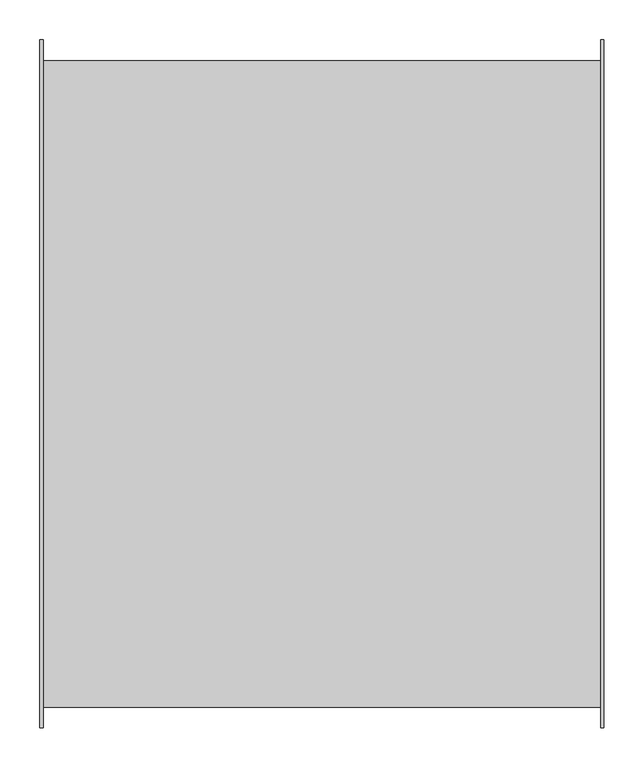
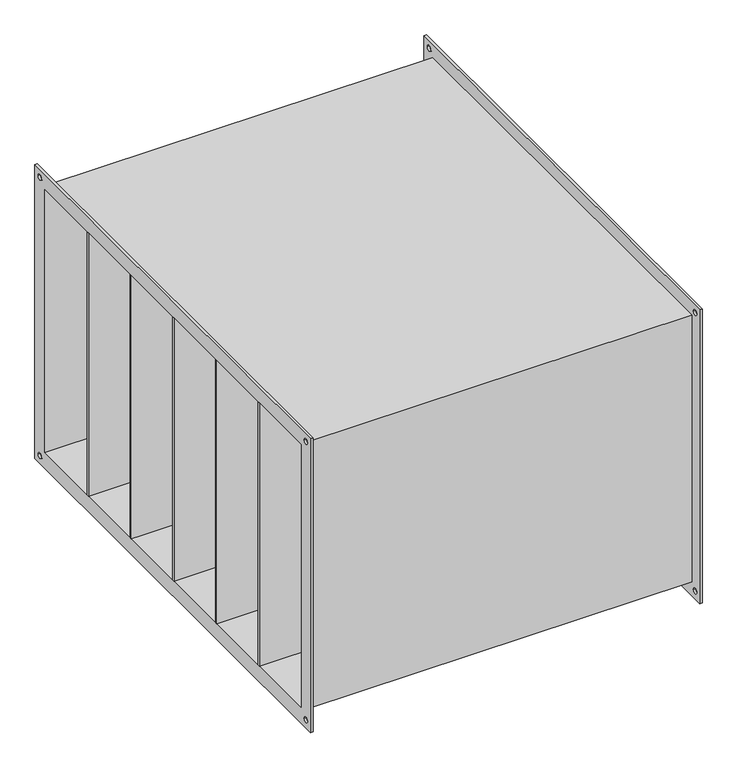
"""IFC4 building model written with IfcOpenShell, lengths in millimetres: damper geometry, СВ_ФильтрКарманный_КанальныйПрямоугольный_200-1000_SFPK : SFPK-800x500."""

from ifc_helpers import new_model, si_unit, frame, origin, place, context, project, spatial, polyline, circle_curve, outline, extrude, source, transform, mapped, element, save
from ifc_brep_helpers import plane_surface, revolved_surface, advanced_brep


def damper_dda16d9e(model_context):
    return source(origin(), model_context, "Body", "SolidModel", [
        extrude(outline(polyline([(352.5, 266.6666667), (352.5, 262.6666667), (-352.5, 262.6666667), (-352.5, 266.6666667), (352.5, 266.6666667)])), frame((0.0, 0.0, -250.0), z_axis=(0.0, 0.0, 1.0), x_axis=(1.0, 0.0, 0.0)), (0.0, 0.0, 1.0), 500.0),
        extrude(outline(polyline([(352.5, 133.3333333), (352.5, 129.3333333), (-352.5, 129.3333333), (-352.5, 133.3333333), (352.5, 133.3333333)])), frame((0.0, 0.0, -250.0), z_axis=(0.0, 0.0, 1.0), x_axis=(1.0, 0.0, 0.0)), (0.0, 0.0, 1.0), 500.0),
        extrude(outline(polyline([(352.5, 0.0), (352.5, -4.0), (-352.5, -4.0), (-352.5, 0.0), (352.5, 0.0)])), frame((0.0, 0.0, -250.0), z_axis=(0.0, 0.0, 1.0), x_axis=(1.0, 0.0, 0.0)), (0.0, 0.0, 1.0), 500.0),
        extrude(outline(polyline([(352.5, -133.3333333), (352.5, -137.3333333), (-352.5, -137.3333333), (-352.5, -133.3333333), (352.5, -133.3333333)])), frame((0.0, 0.0, -250.0), z_axis=(0.0, 0.0, 1.0), x_axis=(1.0, 0.0, 0.0)), (0.0, 0.0, 1.0), 500.0),
        extrude(outline(polyline([(352.5, -266.6666667), (352.5, -270.6666667), (-352.5, -270.6666667), (-352.5, -266.6666667), (352.5, -266.6666667)])), frame((0.0, 0.0, -250.0), z_axis=(0.0, 0.0, 1.0), x_axis=(1.0, 0.0, 0.0)), (0.0, 0.0, 1.0), 500.0),
        advanced_brep(
        [(348.5, -404.0, 254.0), (-348.5, -404.0, 254.0), (-348.5, -404.0, -254.0), (348.5, -404.0, -254.0), (-348.5, 404.0, -254.0), (348.5, 404.0, -254.0), (-348.5, 404.0, 254.0), (348.5, 404.0, 254.0), (-352.5, -430.0, 280.0), (-352.5, 430.0, 280.0), (-352.5, 430.0, -280.0), (-352.5, -430.0, -280.0), (-352.5, -400.0, 250.0), (-352.5, -400.0, -250.0), (-352.5, 400.0, -250.0), (-352.5, 400.0, 250.0), (-352.5, 410.0, 265.0), (-352.5, 420.0, 265.0), (-352.5, -420.0, 265.0), (-352.5, -410.0, 265.0), (-352.5, -420.0, -265.0), (-352.5, -410.0, -265.0), (-352.5, 410.0, -265.0), (-352.5, 420.0, -265.0), (-348.5, -430.0, 280.0), (-348.5, -430.0, -280.0), (-348.5, 430.0, -280.0), (-348.5, 430.0, 280.0), (-348.5, 420.0, 265.0), (-348.5, 410.0, 265.0), (-348.5, -410.0, 265.0), (-348.5, -420.0, 265.0), (-348.5, -410.0, -265.0), (-348.5, -420.0, -265.0), (-348.5, 420.0, -265.0), (-348.5, 410.0, -265.0), (348.5, 430.0, 280.0), (348.5, 430.0, -280.0), (348.5, -430.0, -280.0), (348.5, -430.0, 280.0), (348.5, 410.0, 265.0), (348.5, 420.0, 265.0), (348.5, -420.0, 265.0), (348.5, -410.0, 265.0), (348.5, -420.0, -265.0), (348.5, -410.0, -265.0), (348.5, 410.0, -265.0), (348.5, 420.0, -265.0), (352.5, 430.0, 280.0), (352.5, -430.0, 280.0), (352.5, -430.0, -280.0), (352.5, 430.0, -280.0), (352.5, 400.0, 250.0), (352.5, 400.0, -250.0), (352.5, -400.0, -250.0), (352.5, -400.0, 250.0), (352.5, 420.0, 265.0), (352.5, 410.0, 265.0), (352.5, -410.0, 265.0), (352.5, -420.0, 265.0), (352.5, -410.0, -265.0), (352.5, -420.0, -265.0), (352.5, 420.0, -265.0), (352.5, 410.0, -265.0)],
        [
            (0, 1),
            (1, 2),
            (2, 3),
            (3, 0),
            (2, 4),
            (4, 5),
            (5, 3),
            (4, 6),
            (6, 7),
            (7, 5),
            (0, 7),
            (6, 1),
            (8, 9),
            (9, 10),
            (10, 11),
            (11, 8),
            (12, 13),
            (13, 14),
            (14, 15),
            (15, 12),
            (16, 17, circle_curve(frame((-352.5, 415.0, 265.0), z_axis=(1.0, 0.0, 0.0), x_axis=(0.0, 1.0, 0.0)), 5.0)),
            (17, 16, circle_curve(frame((-352.5, 415.0, 265.0), z_axis=(1.0, 0.0, 0.0), x_axis=(0.0, 1.0, 0.0)), 5.0)),
            (18, 19, circle_curve(frame((-352.5, -415.0, 265.0), z_axis=(1.0, 0.0, 0.0), x_axis=(0.0, 1.0, 0.0)), 5.0)),
            (19, 18, circle_curve(frame((-352.5, -415.0, 265.0), z_axis=(1.0, 0.0, 0.0), x_axis=(0.0, 1.0, 0.0)), 5.0)),
            (20, 21, circle_curve(frame((-352.5, -415.0, -265.0), z_axis=(1.0, 0.0, 0.0), x_axis=(0.0, 1.0, 0.0)), 5.0)),
            (21, 20, circle_curve(frame((-352.5, -415.0, -265.0), z_axis=(1.0, 0.0, 0.0), x_axis=(0.0, 1.0, 0.0)), 5.0)),
            (22, 23, circle_curve(frame((-352.5, 415.0, -265.0), z_axis=(1.0, 0.0, 0.0), x_axis=(0.0, 1.0, 0.0)), 5.0)),
            (23, 22, circle_curve(frame((-352.5, 415.0, -265.0), z_axis=(1.0, 0.0, 0.0), x_axis=(0.0, 1.0, 0.0)), 5.0)),
            (24, 25),
            (25, 26),
            (26, 27),
            (27, 24),
            (28, 29, circle_curve(frame((-348.5, 415.0, 265.0), z_axis=(-1.0, 0.0, 0.0), x_axis=(0.0, 1.0, 0.0)), 5.0)),
            (29, 28, circle_curve(frame((-348.5, 415.0, 265.0), z_axis=(-1.0, 0.0, 0.0), x_axis=(0.0, 1.0, 0.0)), 5.0)),
            (30, 31, circle_curve(frame((-348.5, -415.0, 265.0), z_axis=(-1.0, 0.0, 0.0), x_axis=(0.0, 1.0, 0.0)), 5.0)),
            (31, 30, circle_curve(frame((-348.5, -415.0, 265.0), z_axis=(-1.0, 0.0, 0.0), x_axis=(0.0, 1.0, 0.0)), 5.0)),
            (32, 33, circle_curve(frame((-348.5, -415.0, -265.0), z_axis=(-1.0, 0.0, 0.0), x_axis=(0.0, 1.0, 0.0)), 5.0)),
            (33, 32, circle_curve(frame((-348.5, -415.0, -265.0), z_axis=(-1.0, 0.0, 0.0), x_axis=(0.0, 1.0, 0.0)), 5.0)),
            (34, 35, circle_curve(frame((-348.5, 415.0, -265.0), z_axis=(-1.0, 0.0, 0.0), x_axis=(0.0, 1.0, 0.0)), 5.0)),
            (35, 34, circle_curve(frame((-348.5, 415.0, -265.0), z_axis=(-1.0, 0.0, 0.0), x_axis=(0.0, 1.0, 0.0)), 5.0)),
            (11, 25),
            (24, 8),
            (10, 26),
            (9, 27),
            (36, 37),
            (37, 38),
            (38, 39),
            (39, 36),
            (40, 41, circle_curve(frame((348.5, 415.0, 265.0), z_axis=(1.0, 0.0, 0.0), x_axis=(0.0, 1.0, 0.0)), 5.0)),
            (41, 40, circle_curve(frame((348.5, 415.0, 265.0), z_axis=(1.0, 0.0, 0.0), x_axis=(0.0, 1.0, 0.0)), 5.0)),
            (42, 43, circle_curve(frame((348.5, -415.0, 265.0), z_axis=(1.0, 0.0, 0.0), x_axis=(0.0, 1.0, 0.0)), 5.0)),
            (43, 42, circle_curve(frame((348.5, -415.0, 265.0), z_axis=(1.0, 0.0, 0.0), x_axis=(0.0, 1.0, 0.0)), 5.0)),
            (44, 45, circle_curve(frame((348.5, -415.0, -265.0), z_axis=(1.0, 0.0, 0.0), x_axis=(0.0, 1.0, 0.0)), 5.0)),
            (45, 44, circle_curve(frame((348.5, -415.0, -265.0), z_axis=(1.0, 0.0, 0.0), x_axis=(0.0, 1.0, 0.0)), 5.0)),
            (46, 47, circle_curve(frame((348.5, 415.0, -265.0), z_axis=(1.0, 0.0, 0.0), x_axis=(0.0, 1.0, 0.0)), 5.0)),
            (47, 46, circle_curve(frame((348.5, 415.0, -265.0), z_axis=(1.0, 0.0, 0.0), x_axis=(0.0, 1.0, 0.0)), 5.0)),
            (48, 49),
            (49, 50),
            (50, 51),
            (51, 48),
            (52, 53),
            (53, 54),
            (54, 55),
            (55, 52),
            (56, 57, circle_curve(frame((352.5, 415.0, 265.0), z_axis=(-1.0, 0.0, 0.0), x_axis=(0.0, 1.0, 0.0)), 5.0)),
            (57, 56, circle_curve(frame((352.5, 415.0, 265.0), z_axis=(-1.0, 0.0, 0.0), x_axis=(0.0, 1.0, 0.0)), 5.0)),
            (58, 59, circle_curve(frame((352.5, -415.0, 265.0), z_axis=(-1.0, 0.0, 0.0), x_axis=(0.0, 1.0, 0.0)), 5.0)),
            (59, 58, circle_curve(frame((352.5, -415.0, 265.0), z_axis=(-1.0, 0.0, 0.0), x_axis=(0.0, 1.0, 0.0)), 5.0)),
            (60, 61, circle_curve(frame((352.5, -415.0, -265.0), z_axis=(-1.0, 0.0, 0.0), x_axis=(0.0, 1.0, 0.0)), 5.0)),
            (61, 60, circle_curve(frame((352.5, -415.0, -265.0), z_axis=(-1.0, 0.0, 0.0), x_axis=(0.0, 1.0, 0.0)), 5.0)),
            (62, 63, circle_curve(frame((352.5, 415.0, -265.0), z_axis=(-1.0, 0.0, 0.0), x_axis=(0.0, 1.0, 0.0)), 5.0)),
            (63, 62, circle_curve(frame((352.5, 415.0, -265.0), z_axis=(-1.0, 0.0, 0.0), x_axis=(0.0, 1.0, 0.0)), 5.0)),
            (39, 49),
            (48, 36),
            (38, 50),
            (37, 51),
            (15, 52),
            (55, 12),
            (14, 53),
            (13, 54),
            (16, 29),
            (28, 17),
            (40, 57),
            (56, 41),
            (18, 31),
            (30, 19),
            (42, 59),
            (58, 43),
            (20, 33),
            (32, 21),
            (44, 61),
            (60, 45),
            (22, 35),
            (34, 23),
            (46, 63),
            (62, 47),
        ],
        [
            plane_surface(frame((348.5, -404.0, 254.0), z_axis=(0.0, -1.0, 0.0), x_axis=(-1.0, 0.0, 0.0))),
            plane_surface(frame((348.5, -404.0, -254.0), z_axis=(0.0, 0.0, -1.0), x_axis=(-1.0, 0.0, 0.0))),
            plane_surface(frame((348.5, 404.0, -254.0), z_axis=(0.0, 1.0, 0.0), x_axis=(-1.0, 0.0, 0.0))),
            plane_surface(frame((348.5, 404.0, 254.0), z_axis=(0.0, 0.0, 1.0), x_axis=(-1.0, 0.0, 0.0))),
            plane_surface(frame((-352.5, -430.0, 280.0), z_axis=(-1.0, 0.0, 0.0), x_axis=(0.0, 0.0, 1.0))),
            plane_surface(frame((-348.5, -430.0, 280.0), z_axis=(1.0, 0.0, 0.0), x_axis=(0.0, 0.0, -1.0))),
            plane_surface(frame((-348.5, -430.0, 280.0), z_axis=(0.0, -1.0, 0.0), x_axis=(-1.0, 0.0, 0.0))),
            plane_surface(frame((-348.5, -430.0, -280.0), z_axis=(0.0, 0.0, -1.0), x_axis=(-1.0, 0.0, 0.0))),
            plane_surface(frame((-348.5, 430.0, -280.0), z_axis=(0.0, 1.0, 0.0), x_axis=(-1.0, 0.0, 0.0))),
            plane_surface(frame((-348.5, 430.0, 280.0), z_axis=(0.0, 0.0, 1.0), x_axis=(-1.0, 0.0, 0.0))),
            plane_surface(frame((348.5, 400.0, -250.0), z_axis=(-1.0, 0.0, 0.0), x_axis=(0.0, 0.0, 1.0))),
            plane_surface(frame((352.5, 400.0, -250.0), z_axis=(1.0, 0.0, 0.0), x_axis=(0.0, 0.0, -1.0))),
            plane_surface(frame((352.5, 430.0, 280.0), z_axis=(0.0, 0.0, 1.0), x_axis=(-1.0, 0.0, 0.0))),
            plane_surface(frame((352.5, -430.0, 280.0), z_axis=(0.0, -1.0, 0.0), x_axis=(-1.0, 0.0, 0.0))),
            plane_surface(frame((352.5, -430.0, -280.0), z_axis=(0.0, 0.0, -1.0), x_axis=(-1.0, 0.0, 0.0))),
            plane_surface(frame((352.5, 430.0, -280.0), z_axis=(0.0, 1.0, 0.0), x_axis=(-1.0, 0.0, 0.0))),
            plane_surface(frame((-348.5, -400.0, 250.0), z_axis=(0.0, 0.0, -1.0), x_axis=(-1.0, 0.0, 0.0))),
            plane_surface(frame((-348.5, 400.0, 250.0), z_axis=(0.0, -1.0, 0.0), x_axis=(-1.0, 0.0, 0.0))),
            plane_surface(frame((-348.5, 400.0, -250.0), z_axis=(0.0, 0.0, 1.0), x_axis=(-1.0, 0.0, 0.0))),
            plane_surface(frame((-348.5, -400.0, -250.0), z_axis=(0.0, 1.0, 0.0), x_axis=(-1.0, 0.0, 0.0))),
            revolved_surface(polyline([(-348.5, 420.0, 265.0), (-352.5, 420.0, 265.0)]), (-352.5, 415.0, 265.0), (1.0, 0.0, 0.0)),
            revolved_surface(polyline([(352.5, 420.0, 265.0), (348.5, 420.0, 265.0)]), (-352.5, 415.0, 265.0), (1.0, 0.0, 0.0)),
            revolved_surface(polyline([(-348.5, -410.0, 265.0), (-352.5, -410.0, 265.0)]), (0.0, -415.0, 265.0), (1.0, 0.0, 0.0)),
            revolved_surface(polyline([(352.5, -410.0, 265.0), (348.5, -410.0, 265.0)]), (0.0, -415.0, 265.0), (1.0, 0.0, 0.0)),
            revolved_surface(polyline([(-348.5, -410.0, -265.0), (-352.5, -410.0, -265.0)]), (0.0, -415.0, -265.0), (1.0, 0.0, 0.0)),
            revolved_surface(polyline([(352.5, -410.0, -265.0), (348.5, -410.0, -265.0)]), (0.0, -415.0, -265.0), (1.0, 0.0, 0.0)),
            revolved_surface(polyline([(-348.5, 420.0, -265.0), (-352.5, 420.0, -265.0)]), (0.0, 415.0, -265.0), (1.0, 0.0, 0.0)),
            revolved_surface(polyline([(352.5, 420.0, -265.0), (348.5, 420.0, -265.0)]), (0.0, 415.0, -265.0), (1.0, 0.0, 0.0)),
        ],
        [
            (0, [[1, 2, 3, 4]]),
            (1, [[-3, 5, 6, 7]]),
            (2, [[-6, 8, 9, 10]]),
            (3, [[-1, 11, -9, 12]]),
            (4, [[13, 14, 15, 16], [17, 18, 19, 20], [21, 22], [23, 24], [25, 26], [27, 28]]),
            (5, [[29, 30, 31, 32], [-2, -12, -8, -5], [33, 34], [35, 36], [37, 38], [39, 40]]),
            (6, [[-16, 41, -29, 42]]),
            (7, [[-15, 43, -30, -41]]),
            (8, [[-14, 44, -31, -43]]),
            (9, [[-13, -42, -32, -44]]),
            (10, [[45, 46, 47, 48], [-4, -7, -10, -11], [49, 50], [51, 52], [53, 54], [55, 56]]),
            (11, [[57, 58, 59, 60], [61, 62, 63, 64], [65, 66], [67, 68], [69, 70], [71, 72]]),
            (12, [[-48, 73, -57, 74]]),
            (13, [[-47, 75, -58, -73]]),
            (14, [[-46, 76, -59, -75]]),
            (15, [[-45, -74, -60, -76]]),
            (16, [[-20, 77, -64, 78]]),
            (17, [[-77, -19, 79, -61]]),
            (18, [[-79, -18, 80, -62]]),
            (19, [[-80, -17, -78, -63]]),
            (20, [[81, -33, 82, -21]]),
            (21, [[83, -65, 84, -49]]),
            (20, [[-81, -22, -82, -34]]),
            (21, [[-83, -50, -84, -66]]),
            (22, [[85, -35, 86, -23]]),
            (23, [[87, -67, 88, -51]]),
            (22, [[-85, -24, -86, -36]]),
            (23, [[-87, -52, -88, -68]]),
            (24, [[89, -37, 90, -25]]),
            (25, [[91, -69, 92, -53]]),
            (24, [[-89, -26, -90, -38]]),
            (25, [[-91, -54, -92, -70]]),
            (26, [[93, -39, 94, -27]]),
            (27, [[95, -71, 96, -55]]),
            (26, [[-93, -28, -94, -40]]),
            (27, [[-95, -56, -96, -72]]),
        ],
    ),
    ])


if __name__ == "__main__":
    model = new_model("IFC4")
    model_context = context("Model", 3, world=origin())
    ifc_project = project(units=[si_unit("LENGTHUNIT", "METRE", prefix="MILLI")], contexts=[model_context])
    site = spatial("IfcSite", under=ifc_project)
    building = spatial("IfcBuilding", under=site)
    placement = place(None, origin())
    damper_shape = damper_dda16d9e(model_context)
    element("IfcDamper", 1, ObjectType="СВ_ФильтрКарманный_КанальныйПрямоугольный_200-1000_SFPK : SFPK-800x500", at=placement, inside=building, context=model_context, shape_type="MappedRepresentation", body=[
        mapped(damper_shape, transform((0.0, 0.0, 0.0), x_axis=(1.0, 0.0, 0.0), y_axis=(0.0, 1.0, 0.0), z_axis=(0.0, 0.0, 1.0))),
    ])
    save(model, "model.ifc")
